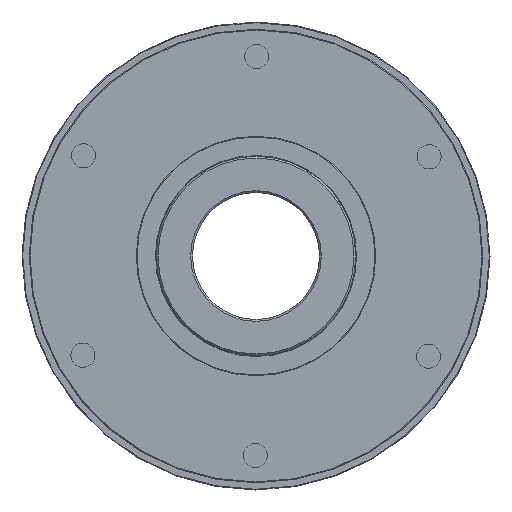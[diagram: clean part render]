
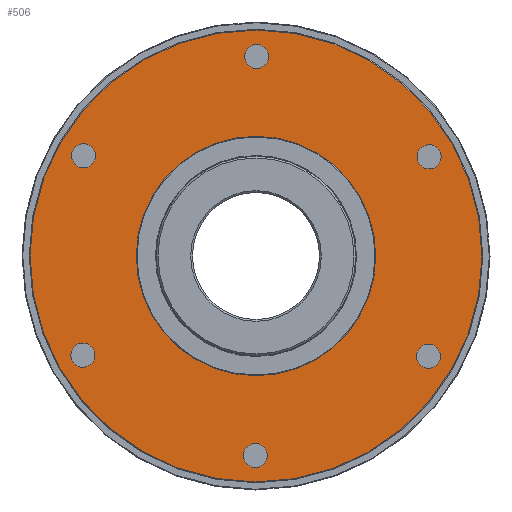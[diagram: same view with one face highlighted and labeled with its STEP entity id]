
A CAD part, left-side view. The second image highlights one B-rep face of the part: STEP entity #506.
In plain terms, the highlighted planar face has unit normal (-1, 0, 0).
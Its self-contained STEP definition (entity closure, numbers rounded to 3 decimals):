
#506 = ADVANCED_FACE( '', ( #1019, #1020, #1021, #1022, #1023, #1024, #1025, #1026 ), #1027, .T. );
#1019 = FACE_BOUND( '', #1557, .T. );
#1020 = FACE_BOUND( '', #1558, .T. );
#1021 = FACE_BOUND( '', #1559, .T. );
#1022 = FACE_BOUND( '', #1560, .T. );
#1023 = FACE_BOUND( '', #1561, .T. );
#1024 = FACE_BOUND( '', #1562, .T. );
#1025 = FACE_OUTER_BOUND( '', #1563, .T. );
#1026 = FACE_BOUND( '', #1564, .T. );
#1027 = PLANE( '', #1565 );
#1557 = EDGE_LOOP( '', ( #2321 ) );
#1558 = EDGE_LOOP( '', ( #2322 ) );
#1559 = EDGE_LOOP( '', ( #2323 ) );
#1560 = EDGE_LOOP( '', ( #2324 ) );
#1561 = EDGE_LOOP( '', ( #2325 ) );
#1562 = EDGE_LOOP( '', ( #2326 ) );
#1563 = EDGE_LOOP( '', ( #2327 ) );
#1564 = EDGE_LOOP( '', ( #2328 ) );
#1565 = AXIS2_PLACEMENT_3D( '', #2329, #2330, #2331 );
#2321 = ORIENTED_EDGE( '', *, *, #2662, .T. );
#2322 = ORIENTED_EDGE( '', *, *, #2812, .T. );
#2323 = ORIENTED_EDGE( '', *, *, #2696, .T. );
#2324 = ORIENTED_EDGE( '', *, *, #2719, .T. );
#2325 = ORIENTED_EDGE( '', *, *, #2601, .T. );
#2326 = ORIENTED_EDGE( '', *, *, #2784, .T. );
#2327 = ORIENTED_EDGE( '', *, *, #2788, .T. );
#2328 = ORIENTED_EDGE( '', *, *, #2610, .F. );
#2329 = CARTESIAN_POINT( '', ( 29.5, 0., 33. ) );
#2330 = DIRECTION( '', ( -1., 0., 0. ) );
#2331 = DIRECTION( '', ( 0., 0., 1. ) );
#2601 = EDGE_CURVE( '', #2932, #2932, #2933, .T. );
#2610 = EDGE_CURVE( '', #2947, #2947, #2948, .T. );
#2662 = EDGE_CURVE( '', #3033, #3033, #3034, .T. );
#2696 = EDGE_CURVE( '', #3089, #3089, #3090, .T. );
#2719 = EDGE_CURVE( '', #3122, #3122, #3123, .T. );
#2784 = EDGE_CURVE( '', #3211, #3211, #3212, .T. );
#2788 = EDGE_CURVE( '', #3216, #3216, #3217, .T. );
#2812 = EDGE_CURVE( '', #3248, #3248, #3249, .T. );
#2932 = VERTEX_POINT( '', #3600 );
#2933 = CIRCLE( '', #3601, 3.324 );
#2947 = VERTEX_POINT( '', #3615 );
#2948 = CIRCLE( '', #3616, 33. );
#3033 = VERTEX_POINT( '', #3805 );
#3034 = CIRCLE( '', #3806, 3.324 );
#3089 = VERTEX_POINT( '', #3947 );
#3090 = CIRCLE( '', #3948, 3.324 );
#3122 = VERTEX_POINT( '', #3985 );
#3123 = CIRCLE( '', #3986, 3.324 );
#3211 = VERTEX_POINT( '', #4154 );
#3212 = CIRCLE( '', #4155, 3.324 );
#3216 = VERTEX_POINT( '', #4160 );
#3217 = CIRCLE( '', #4161, 62.3 );
#3248 = VERTEX_POINT( '', #4195 );
#3249 = CIRCLE( '', #4196, 3.324 );
#3600 = CARTESIAN_POINT( '', ( 29.5, -50.51, 29.162 ) );
#3601 = AXIS2_PLACEMENT_3D( '', #4378, #4379, #4380 );
#3615 = CARTESIAN_POINT( '', ( 29.5, 0., 33. ) );
#3616 = AXIS2_PLACEMENT_3D( '', #4396, #4397, #4398 );
#3805 = CARTESIAN_POINT( '', ( 29.5, 50.51, 29.162 ) );
#3806 = AXIS2_PLACEMENT_3D( '', #4488, #4489, #4490 );
#3947 = CARTESIAN_POINT( '', ( 29.5, 0., -58.324 ) );
#3948 = AXIS2_PLACEMENT_3D( '', #4539, #4540, #4541 );
#3985 = CARTESIAN_POINT( '', ( 29.5, -50.51, -29.162 ) );
#3986 = AXIS2_PLACEMENT_3D( '', #4568, #4569, #4570 );
#4154 = CARTESIAN_POINT( '', ( 29.5, 0., 58.324 ) );
#4155 = AXIS2_PLACEMENT_3D( '', #4644, #4645, #4646 );
#4160 = CARTESIAN_POINT( '', ( 29.5, 0., 62.3 ) );
#4161 = AXIS2_PLACEMENT_3D( '', #4648, #4649, #4650 );
#4195 = CARTESIAN_POINT( '', ( 29.5, 50.51, -29.162 ) );
#4196 = AXIS2_PLACEMENT_3D( '', #4675, #4676, #4677 );
#4378 = CARTESIAN_POINT( '', ( 29.5, -47.631, 27.5 ) );
#4379 = DIRECTION( '', ( 1., 0., 0. ) );
#4380 = DIRECTION( '', ( 0., -0.866, 0.5 ) );
#4396 = CARTESIAN_POINT( '', ( 29.5, 0., 0. ) );
#4397 = DIRECTION( '', ( -1., 0., 0. ) );
#4398 = DIRECTION( '', ( 0., 0., 1. ) );
#4488 = CARTESIAN_POINT( '', ( 29.5, 47.631, 27.5 ) );
#4489 = DIRECTION( '', ( 1., 0., 0. ) );
#4490 = DIRECTION( '', ( 0., 0.866, 0.5 ) );
#4539 = CARTESIAN_POINT( '', ( 29.5, 0., -55. ) );
#4540 = DIRECTION( '', ( 1., 0., 0. ) );
#4541 = DIRECTION( '', ( 0., 0., -1. ) );
#4568 = CARTESIAN_POINT( '', ( 29.5, -47.631, -27.5 ) );
#4569 = DIRECTION( '', ( 1., 0., 0. ) );
#4570 = DIRECTION( '', ( 0., -0.866, -0.5 ) );
#4644 = CARTESIAN_POINT( '', ( 29.5, 0., 55. ) );
#4645 = DIRECTION( '', ( 1., 0., 0. ) );
#4646 = DIRECTION( '', ( 0., 0., 1. ) );
#4648 = CARTESIAN_POINT( '', ( 29.5, 0., 0. ) );
#4649 = DIRECTION( '', ( -1., 0., 0. ) );
#4650 = DIRECTION( '', ( 0., 0., 1. ) );
#4675 = CARTESIAN_POINT( '', ( 29.5, 47.631, -27.5 ) );
#4676 = DIRECTION( '', ( 1., 0., 0. ) );
#4677 = DIRECTION( '', ( 0., 0.866, -0.5 ) );
